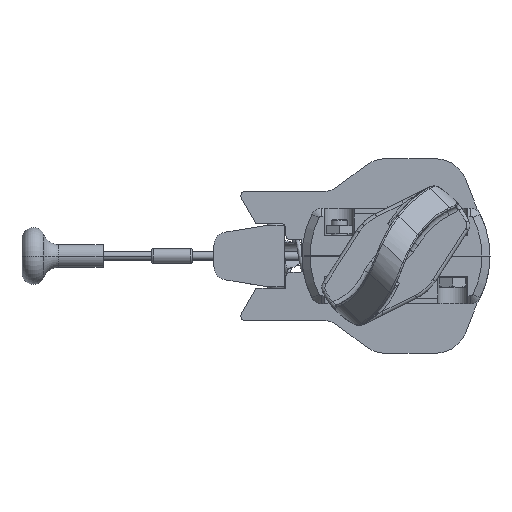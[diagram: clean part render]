
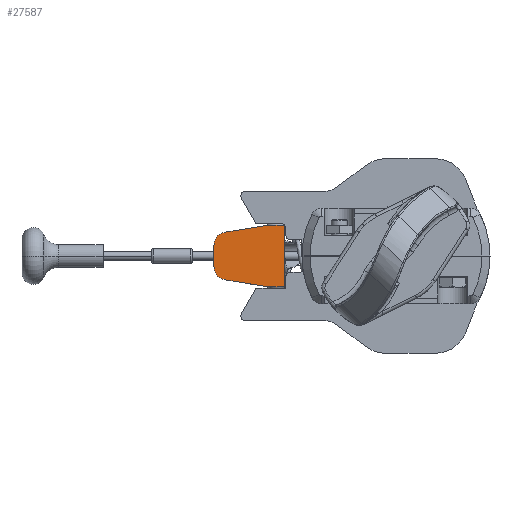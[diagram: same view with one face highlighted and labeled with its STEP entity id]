
A CAD part, front view. The second image highlights one B-rep face of the part: STEP entity #27587.
In plain terms, the highlighted planar face has unit normal (0, -1, 0) as drawn and (0, 0, -1) by its records, which use the part's own axes.
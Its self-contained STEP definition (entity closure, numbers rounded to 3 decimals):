
#334 = ORIENTED_EDGE ( 'NONE', *, *, #15733, .T. ) ;
#2287 = EDGE_CURVE ( 'NONE', #7491, #59656, #3446, .T. ) ;
#3446 = LINE ( 'NONE', #43671, #34366 ) ;
#5120 = DIRECTION ( 'NONE',  ( -0.987, 0.162, 0. ) ) ;
#5227 = DIRECTION ( 'NONE',  ( 0., 0., -1. ) ) ;
#5726 = ORIENTED_EDGE ( 'NONE', *, *, #10068, .F. ) ;
#7491 = VERTEX_POINT ( 'NONE', #45635 ) ;
#10068 = EDGE_CURVE ( 'NONE', #72670, #70426, #80249, .T. ) ;
#10974 = CARTESIAN_POINT ( 'NONE',  ( -0.071, 0., 0. ) ) ;
#11302 = DIRECTION ( 'NONE',  ( 1., 0., 0. ) ) ;
#11487 = ORIENTED_EDGE ( 'NONE', *, *, #2287, .T. ) ;
#11939 = ORIENTED_EDGE ( 'NONE', *, *, #58758, .F. ) ;
#12293 = CARTESIAN_POINT ( 'NONE',  ( -0.071, 38.002, 0. ) ) ;
#12729 = CARTESIAN_POINT ( 'NONE',  ( -0.071, 38., 0. ) ) ;
#13391 = DIRECTION ( 'NONE',  ( -0.001, -1., 0. ) ) ;
#15109 = LINE ( 'NONE', #16449, #15923 ) ;
#15650 = CARTESIAN_POINT ( 'NONE',  ( -33.289, 12.25, 0. ) ) ;
#15733 = EDGE_CURVE ( 'NONE', #77621, #60328, #78592, .T. ) ;
#15923 = VECTOR ( 'NONE', #78039, 1000. ) ;
#16449 = CARTESIAN_POINT ( 'NONE',  ( 0., 38., 0. ) ) ;
#18072 = DIRECTION ( 'NONE',  ( 0., 0., -1. ) ) ;
#18810 = DIRECTION ( 'NONE',  ( 1., 0., 0. ) ) ;
#19917 = EDGE_LOOP ( 'NONE', ( #5726, #36986, #11487, #11939, #88213, #31970, #334, #83362, #63746, #61312 ) ) ;
#20992 = VECTOR ( 'NONE', #66175, 1000. ) ;
#21656 = LINE ( 'NONE', #28015, #47981 ) ;
#21915 = EDGE_CURVE ( 'NONE', #23026, #81748, #53239, .T. ) ;
#21947 = VERTEX_POINT ( 'NONE', #46869 ) ;
#23026 = VERTEX_POINT ( 'NONE', #40203 ) ;
#23778 = LINE ( 'NONE', #47266, #24402 ) ;
#24402 = VECTOR ( 'NONE', #18810, 1000. ) ;
#25859 = CARTESIAN_POINT ( 'NONE',  ( 0., 0.002, 0. ) ) ;
#27587 = ADVANCED_FACE ( 'NONE', ( #32848 ), #40509, .T. ) ;
#28015 = CARTESIAN_POINT ( 'NONE',  ( -3., 0., 0. ) ) ;
#29266 = AXIS2_PLACEMENT_3D ( 'NONE', #52455, #18072, #11302 ) ;
#31642 = EDGE_CURVE ( 'NONE', #72670, #7491, #23778, .T. ) ;
#31970 = ORIENTED_EDGE ( 'NONE', *, *, #75099, .T. ) ;
#32848 = FACE_OUTER_BOUND ( 'NONE', #19917, .T. ) ;
#32941 = VECTOR ( 'NONE', #13391, 1000. ) ;
#33714 = DIRECTION ( 'NONE',  ( 0., 0., -1. ) ) ;
#34366 = VECTOR ( 'NONE', #64558, 1000. ) ;
#34763 = EDGE_CURVE ( 'NONE', #60328, #64396, #65026, .T. ) ;
#35222 = DIRECTION ( 'NONE',  ( 1., 0., 0. ) ) ;
#36986 = ORIENTED_EDGE ( 'NONE', *, *, #31642, .T. ) ;
#37347 = AXIS2_PLACEMENT_3D ( 'NONE', #68182, #33714, #61366 ) ;
#37470 = CARTESIAN_POINT ( 'NONE',  ( 10., 0., 0. ) ) ;
#40203 = CARTESIAN_POINT ( 'NONE',  ( -0.071, 0.014, 0. ) ) ;
#40509 = PLANE ( 'NONE',  #37347 ) ;
#41623 = CARTESIAN_POINT ( 'NONE',  ( -26.582, 4.355, 0. ) ) ;
#43671 = CARTESIAN_POINT ( 'NONE',  ( 10., 0., 0. ) ) ;
#45449 = DIRECTION ( 'NONE',  ( 1., 0., 0. ) ) ;
#45503 = CARTESIAN_POINT ( 'NONE',  ( -33.289, 12.25, 0. ) ) ;
#45635 = CARTESIAN_POINT ( 'NONE',  ( 10., 38., 0. ) ) ;
#46869 = CARTESIAN_POINT ( 'NONE',  ( -26.582, 33.647, 0. ) ) ;
#47266 = CARTESIAN_POINT ( 'NONE',  ( 10., 38., 0. ) ) ;
#47981 = VECTOR ( 'NONE', #35222, 1000. ) ;
#49623 = AXIS2_PLACEMENT_3D ( 'NONE', #67219, #5227, #45449 ) ;
#52455 = CARTESIAN_POINT ( 'NONE',  ( -25.289, 25.752, 0. ) ) ;
#53239 = LINE ( 'NONE', #53669, #32941 ) ;
#53615 = EDGE_CURVE ( 'NONE', #64396, #21947, #68337, .T. ) ;
#53669 = CARTESIAN_POINT ( 'NONE',  ( -0.071, 0., 0. ) ) ;
#58758 = EDGE_CURVE ( 'NONE', #81748, #59656, #21656, .T. ) ;
#59656 = VERTEX_POINT ( 'NONE', #37470 ) ;
#60328 = VERTEX_POINT ( 'NONE', #15650 ) ;
#61312 = ORIENTED_EDGE ( 'NONE', *, *, #61449, .T. ) ;
#61366 = DIRECTION ( 'NONE',  ( -1., 0., 0. ) ) ;
#61449 = EDGE_CURVE ( 'NONE', #21947, #70426, #15109, .T. ) ;
#63220 = CARTESIAN_POINT ( 'NONE',  ( -0.071, 37.988, 0. ) ) ;
#63746 = ORIENTED_EDGE ( 'NONE', *, *, #53615, .T. ) ;
#64396 = VERTEX_POINT ( 'NONE', #87692 ) ;
#64558 = DIRECTION ( 'NONE',  ( 0., -1., 0. ) ) ;
#65026 = LINE ( 'NONE', #45503, #71041 ) ;
#66175 = DIRECTION ( 'NONE',  ( 0.001, -1., 0. ) ) ;
#67219 = CARTESIAN_POINT ( 'NONE',  ( -25.289, 12.25, 0. ) ) ;
#68182 = CARTESIAN_POINT ( 'NONE',  ( -3., 0., 0. ) ) ;
#68337 = CIRCLE ( 'NONE', #29266, 8. ) ;
#70426 = VERTEX_POINT ( 'NONE', #63220 ) ;
#71041 = VECTOR ( 'NONE', #78644, 1000. ) ;
#72670 = VERTEX_POINT ( 'NONE', #12729 ) ;
#75099 = EDGE_CURVE ( 'NONE', #23026, #77621, #87972, .T. ) ;
#77621 = VERTEX_POINT ( 'NONE', #41623 ) ;
#78039 = DIRECTION ( 'NONE',  ( 0.987, 0.162, 0. ) ) ;
#78592 = CIRCLE ( 'NONE', #49623, 8. ) ;
#78644 = DIRECTION ( 'NONE',  ( 0., 1., 0. ) ) ;
#80249 = LINE ( 'NONE', #12293, #20992 ) ;
#81748 = VERTEX_POINT ( 'NONE', #10974 ) ;
#83282 = VECTOR ( 'NONE', #5120, 1000. ) ;
#83362 = ORIENTED_EDGE ( 'NONE', *, *, #34763, .T. ) ;
#87692 = CARTESIAN_POINT ( 'NONE',  ( -33.289, 25.752, 0. ) ) ;
#87972 = LINE ( 'NONE', #25859, #83282 ) ;
#88213 = ORIENTED_EDGE ( 'NONE', *, *, #21915, .F. ) ;
